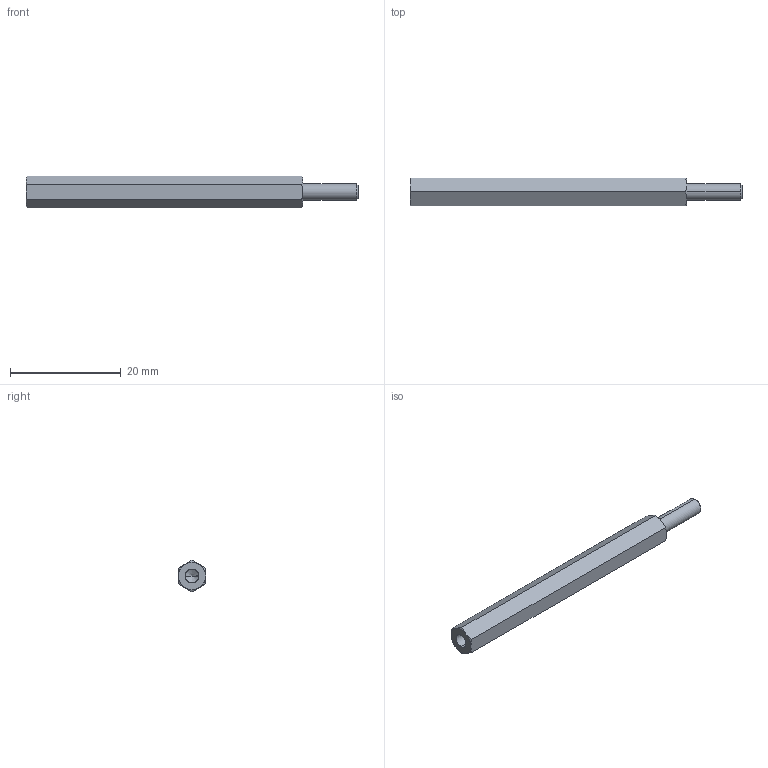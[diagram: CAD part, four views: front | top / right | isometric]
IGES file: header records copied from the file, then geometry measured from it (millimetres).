
Start section: SolidWorks IGES file using analytic representation for surfaces
Global section: file name: C:\Users\render1\Desktop\P0185_IGES\P0185.03-50.igs; native system: SolidWorks 2009; preprocessor: SolidWorks 2009; author: render1; date: 130627.111855; units: millimetre
Bounding box: 60 x 5 x 5.77 mm (x, y, z)
Surface area: 1079.4 mm2 (no closed solid volume)
Topology: 0 solids, 0 shells, 29 faces, 324 edges, 322 vertices
Faces by surface type: revolution 20, bspline 9
